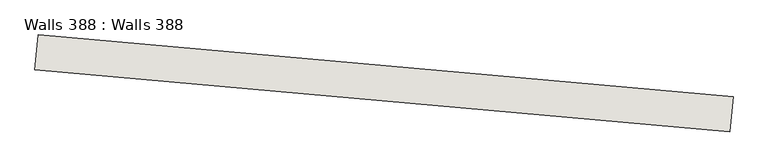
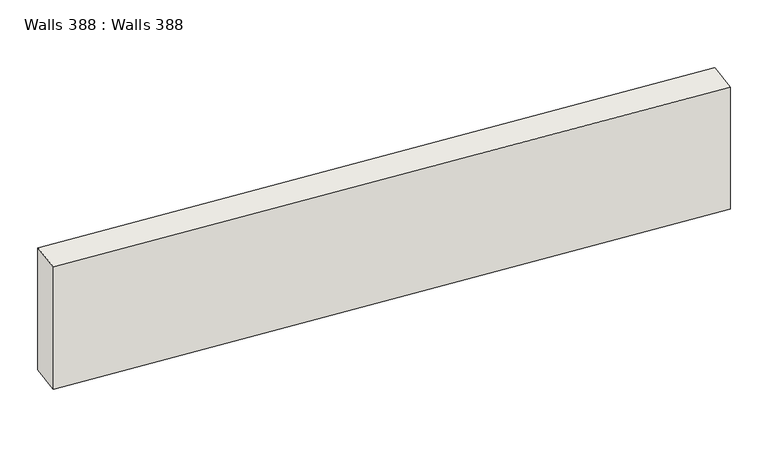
"""IFC4 building model written with IfcOpenShell, lengths in millimetres: wall geometry, Walls 388 : Walls 388."""

from ifc_helpers import new_model, si_unit, frame, origin, place, context, project, spatial, polyline, outline, extrude, source, transform, mapped, element, save


def walls_388_walls_388_a6b19cf1(model_context):
    return source(origin(), model_context, "Body", "SweptSolid", [
        extrude(outline(polyline([(-610886.110626, -424255.8248101), (-610921.6055561, -424654.246835), (-618890.0460545, -423944.3482338), (-618854.5511245, -423545.9262088), (-610886.110626, -424255.8248101)])), frame((0.0, 0.0, 635860.0), z_axis=(0.0, 0.0, 1.0), x_axis=(1.0, 0.0, 0.0)), (0.0, 0.0, 1.0), 1600.0),
    ])


if __name__ == "__main__":
    model = new_model("IFC4")
    model_context = context("Model", 3, world=origin())
    ifc_project = project(units=[si_unit("LENGTHUNIT", "METRE", prefix="MILLI")], contexts=[model_context])
    site = spatial("IfcSite", under=ifc_project)
    building = spatial("IfcBuilding", under=site)
    placement = place(None, origin())
    walls_388_walls_388_shape = walls_388_walls_388_a6b19cf1(model_context)
    element("IfcWall", 1, ObjectType="Walls 388 : Walls 388", at=placement, inside=building, context=model_context, shape_type="MappedRepresentation", body=[
        mapped(walls_388_walls_388_shape, transform((0.0, 0.0, 0.0), x_axis=(1.0, 0.0, 0.0), y_axis=(0.0, 1.0, 0.0), z_axis=(0.0, 0.0, 1.0))),
    ])
    save(model, "model.ifc")
